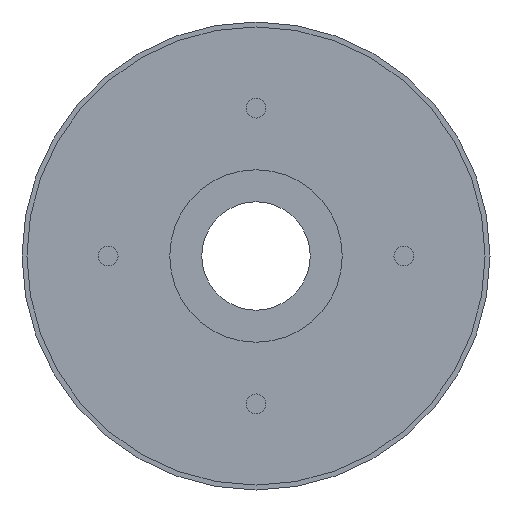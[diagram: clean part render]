
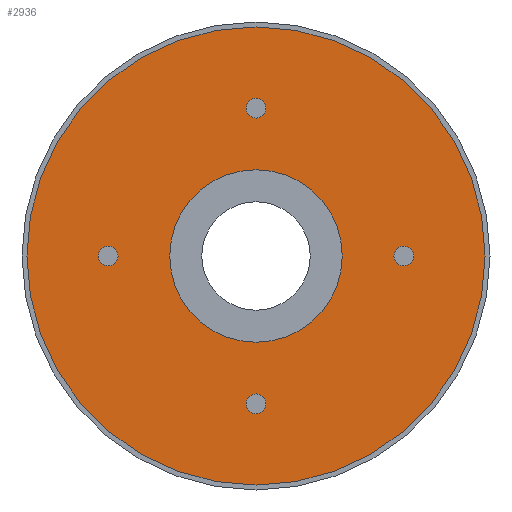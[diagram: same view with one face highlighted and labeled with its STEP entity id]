
A CAD part, left-side view. The second image highlights one B-rep face of the part: STEP entity #2936.
In plain terms, the highlighted planar face has unit normal (-1, 0, 0).
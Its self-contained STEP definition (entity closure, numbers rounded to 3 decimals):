
#1=CARTESIAN_POINT('',(-212.022,0.,0.));
#2=DIRECTION('',(1.,0.,0.));
#3=DIRECTION('',(0.,0.,-1.));
#4=AXIS2_PLACEMENT_3D('',#1,#2,#3);
#14=CARTESIAN_POINT('',(-212.022,0.,0.));
#15=DIRECTION('',(-1.,0.,0.));
#16=DIRECTION('',(0.,0.,-1.));
#17=AXIS2_PLACEMENT_3D('',#14,#15,#16);
#943=CARTESIAN_POINT('',(-212.022,0.,0.));
#944=DIRECTION('',(-1.,0.,0.));
#945=DIRECTION('',(0.,0.,-1.));
#946=AXIS2_PLACEMENT_3D('',#943,#944,#945);
#948=CARTESIAN_POINT('',(-212.022,0.,0.));
#949=DIRECTION('',(1.,0.,0.));
#950=DIRECTION('',(0.,0.,-1.));
#951=AXIS2_PLACEMENT_3D('',#948,#949,#950);
#953=CARTESIAN_POINT('',(-212.022,0.,30.));
#954=DIRECTION('',(-1.,0.,0.));
#955=DIRECTION('',(0.,-1.,0.));
#956=AXIS2_PLACEMENT_3D('',#953,#954,#955);
#958=CARTESIAN_POINT('',(-212.022,0.,30.));
#959=DIRECTION('',(-1.,0.,0.));
#960=DIRECTION('',(0.,1.,0.));
#961=AXIS2_PLACEMENT_3D('',#958,#959,#960);
#963=CARTESIAN_POINT('',(-212.022,-30.,0.));
#964=DIRECTION('',(-1.,0.,0.));
#965=DIRECTION('',(0.,0.,-1.));
#966=AXIS2_PLACEMENT_3D('',#963,#964,#965);
#968=CARTESIAN_POINT('',(-212.022,-30.,0.));
#969=DIRECTION('',(-1.,0.,0.));
#970=DIRECTION('',(0.,0.,1.));
#971=AXIS2_PLACEMENT_3D('',#968,#969,#970);
#973=CARTESIAN_POINT('',(-212.022,0.,-30.));
#974=DIRECTION('',(-1.,0.,0.));
#975=DIRECTION('',(0.,1.,0.));
#976=AXIS2_PLACEMENT_3D('',#973,#974,#975);
#978=CARTESIAN_POINT('',(-212.022,0.,-30.));
#979=DIRECTION('',(-1.,0.,0.));
#980=DIRECTION('',(0.,-1.,0.));
#981=AXIS2_PLACEMENT_3D('',#978,#979,#980);
#983=CARTESIAN_POINT('',(-212.022,30.,0.));
#984=DIRECTION('',(-1.,0.,0.));
#985=DIRECTION('',(0.,0.,1.));
#986=AXIS2_PLACEMENT_3D('',#983,#984,#985);
#988=CARTESIAN_POINT('',(-212.022,30.,0.));
#989=DIRECTION('',(-1.,0.,0.));
#990=DIRECTION('',(0.,0.,-1.));
#991=AXIS2_PLACEMENT_3D('',#988,#989,#990);
#1137=CARTESIAN_POINT('',(-212.022,0.,-17.5));
#1139=VERTEX_POINT('',#1137);
#1262=CARTESIAN_POINT('',(-212.022,0.,-46.5));
#1264=VERTEX_POINT('',#1262);
#1265=CARTESIAN_POINT('',(-212.022,0.,17.5));
#1267=VERTEX_POINT('',#1265);
#1390=CARTESIAN_POINT('',(-212.022,0.,46.5));
#1392=VERTEX_POINT('',#1390);
#1429=CARTESIAN_POINT('',(-212.022,-2.,30.));
#1430=CARTESIAN_POINT('',(-212.022,2.,30.));
#1431=VERTEX_POINT('',#1429);
#1432=VERTEX_POINT('',#1430);
#1437=CARTESIAN_POINT('',(-212.022,-30.,-2.));
#1438=CARTESIAN_POINT('',(-212.022,-30.,2.));
#1439=VERTEX_POINT('',#1437);
#1440=VERTEX_POINT('',#1438);
#1445=CARTESIAN_POINT('',(-212.022,2.,-30.));
#1446=CARTESIAN_POINT('',(-212.022,-2.,-30.));
#1447=VERTEX_POINT('',#1445);
#1448=VERTEX_POINT('',#1446);
#1453=CARTESIAN_POINT('',(-212.022,30.,2.));
#1454=CARTESIAN_POINT('',(-212.022,30.,-2.));
#1455=VERTEX_POINT('',#1453);
#1456=VERTEX_POINT('',#1454);
#2899=CARTESIAN_POINT('',(-212.022,0.,0.));
#2900=DIRECTION('',(1.,0.,0.));
#2901=DIRECTION('',(0.,0.,1.));
#2902=AXIS2_PLACEMENT_3D('',#2899,#2900,#2901);
#2903=PLANE('',#2902);
#2904=ORIENTED_EDGE('',*,*,#2892,.F.);
#2905=ORIENTED_EDGE('',*,*,#2881,.T.);
#2906=EDGE_LOOP('',(#2904,#2905));
#2907=FACE_OUTER_BOUND('',#2906,.F.);
#2908=ORIENTED_EDGE('',*,*,#1464,.F.);
#2909=ORIENTED_EDGE('',*,*,#1482,.T.);
#2910=EDGE_LOOP('',(#2908,#2909));
#2911=FACE_BOUND('',#2910,.F.);
#2913=ORIENTED_EDGE('',*,*,#2912,.T.);
#2915=ORIENTED_EDGE('',*,*,#2914,.T.);
#2916=EDGE_LOOP('',(#2913,#2915));
#2917=FACE_BOUND('',#2916,.F.);
#2919=ORIENTED_EDGE('',*,*,#2918,.T.);
#2921=ORIENTED_EDGE('',*,*,#2920,.T.);
#2922=EDGE_LOOP('',(#2919,#2921));
#2923=FACE_BOUND('',#2922,.F.);
#2925=ORIENTED_EDGE('',*,*,#2924,.T.);
#2927=ORIENTED_EDGE('',*,*,#2926,.T.);
#2928=EDGE_LOOP('',(#2925,#2927));
#2929=FACE_BOUND('',#2928,.F.);
#2931=ORIENTED_EDGE('',*,*,#2930,.T.);
#2933=ORIENTED_EDGE('',*,*,#2932,.T.);
#2934=EDGE_LOOP('',(#2931,#2933));
#2935=FACE_BOUND('',#2934,.F.);
#5=CIRCLE('',#4,17.5);
#18=CIRCLE('',#17,17.5);
#947=CIRCLE('',#946,46.5);
#952=CIRCLE('',#951,46.5);
#957=CIRCLE('',#956,2.);
#962=CIRCLE('',#961,2.);
#967=CIRCLE('',#966,2.);
#972=CIRCLE('',#971,2.);
#977=CIRCLE('',#976,2.);
#982=CIRCLE('',#981,2.);
#987=CIRCLE('',#986,2.);
#992=CIRCLE('',#991,2.);
#1464=EDGE_CURVE('',#1139,#1267,#5,.T.);
#1482=EDGE_CURVE('',#1139,#1267,#18,.T.);
#2881=EDGE_CURVE('',#1264,#1392,#952,.T.);
#2892=EDGE_CURVE('',#1264,#1392,#947,.T.);
#2912=EDGE_CURVE('',#1431,#1432,#957,.T.);
#2914=EDGE_CURVE('',#1432,#1431,#962,.T.);
#2918=EDGE_CURVE('',#1439,#1440,#967,.T.);
#2920=EDGE_CURVE('',#1440,#1439,#972,.T.);
#2924=EDGE_CURVE('',#1447,#1448,#977,.T.);
#2926=EDGE_CURVE('',#1448,#1447,#982,.T.);
#2930=EDGE_CURVE('',#1455,#1456,#987,.T.);
#2932=EDGE_CURVE('',#1456,#1455,#992,.T.);
#2936=ADVANCED_FACE('',(#2907,#2911,#2917,#2923,#2929,#2935),#2903,.F.);
